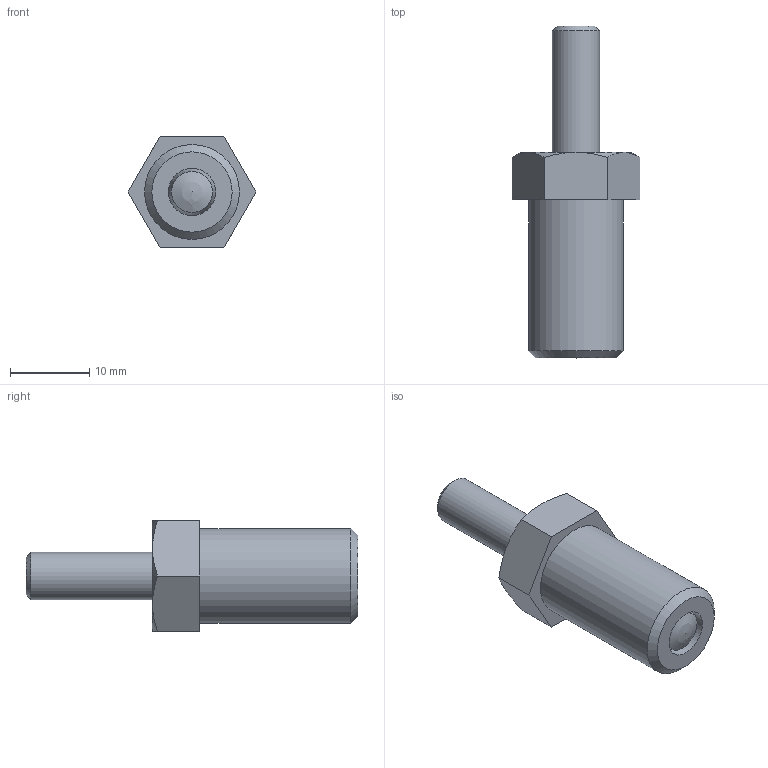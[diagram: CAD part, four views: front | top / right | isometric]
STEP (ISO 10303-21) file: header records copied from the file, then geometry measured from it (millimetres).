
FILE_DESCRIPTION( ( 'STEP AP203' ), '1' );
FILE_NAME( 'C:/Temp/Ganter_Step_05_03_2020/data/3_1/gn617_n/gn617n_g/Stainless Steel Indexing plunger GN 617-6-G-NI (activated).stp', '2020-03-12T08:43:11', ( 'License CC BY-ND 4.0' ), ( 'CADENAS' ), ' ', 'PARTsolutions', ' ' );
FILE_SCHEMA( ( 'CONFIG_CONTROL_DESIGN' ) );
Length unit declared in the file: millimetre
Products named in the file (3): Stainless Steel Indexing plunger GN 617-6-G-NI (activated); _STAINLESS STEEL - Indexing plunger GN 617-6-G-NI-2; _Indexing plunger GN 617-6-G-NI (1)-1
Assembly tree (2 placements, depth 2):
  Stainless Steel Indexing plunger GN 617-6-G-NI (activated)
    _STAINLESS STEEL - Indexing plunger GN 617-6-G-NI-2
    _Indexing plunger GN 617-6-G-NI (1)-1
Bounding box: 16.17 x 42 x 14 mm (x, y, z)
Volume: 3394 mm3; surface area: 2938.3 mm2
Topology: 2 solids, 2 shells, 31 faces, 60 edges, 37 vertices
Faces by surface type: plane 14, cone 9, cylinder 7, sphere 1
Full cylindrical faces by diameter (mm): 6 x4, 10 x2, 12 x1
Entity records: 872 total; most frequent: CARTESIAN_POINT 185, DIRECTION 126, ORIENTED_EDGE 94, AXIS2_PLACEMENT_3D 57, EDGE_LOOP 48, EDGE_CURVE 47, FACE_OUTER_BOUND 38, VERTEX_POINT 36
